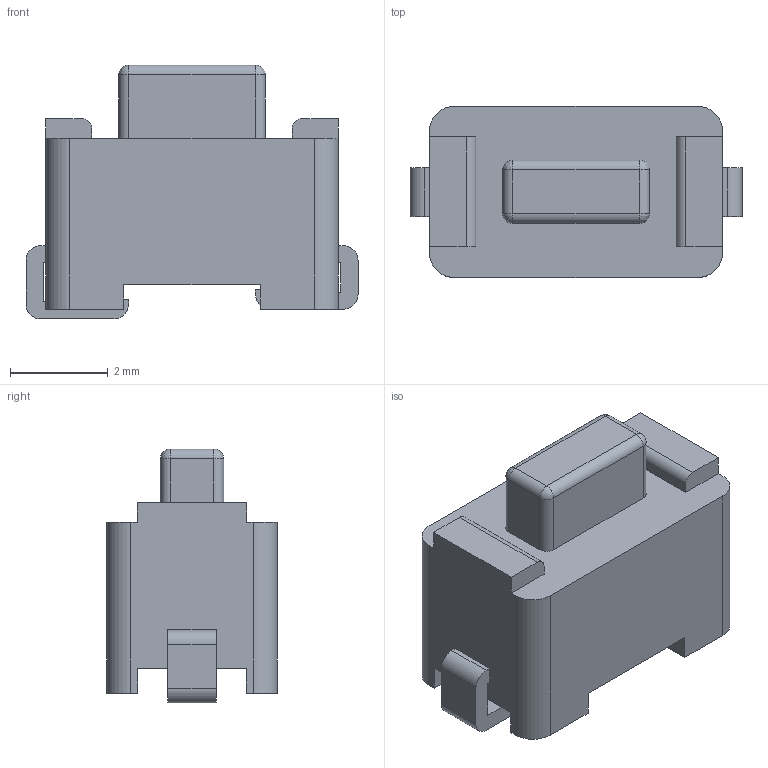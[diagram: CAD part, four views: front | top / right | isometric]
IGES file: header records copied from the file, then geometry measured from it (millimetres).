
Start section:  PTC IGES file: c-147873-1-k-3d.igs
Global section: file name: c-147873-1-k-3d.igs; native system: Creo Parametric by Parametric Technology Corporation; preprocessor: 2013050; author: workeradm; organization: Unknown; units: millimetre
Bounding box: 6.8 x 3.5 x 5.2 mm (x, y, z)
Surface area: 137.4 mm2 (no closed solid volume)
Topology: 0 solids, 0 shells, 77 faces, 408 edges, 408 vertices
Faces by surface type: bspline 53, revolution 24
